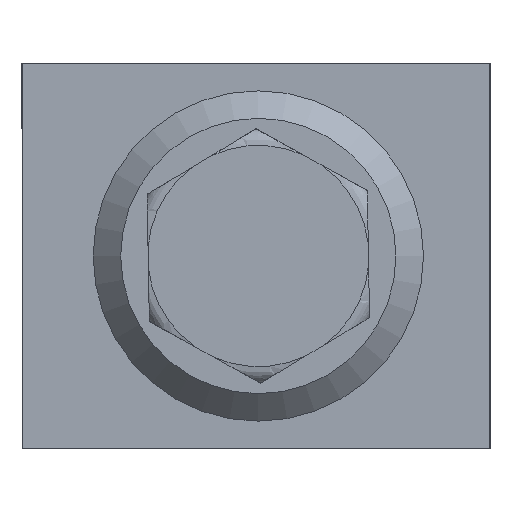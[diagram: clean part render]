
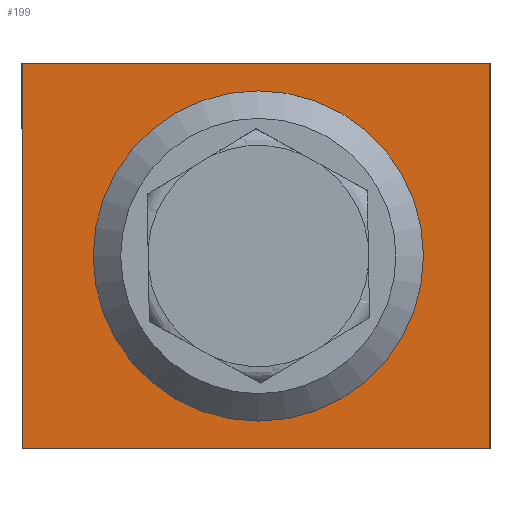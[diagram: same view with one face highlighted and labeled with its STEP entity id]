
A CAD part, left-side view. The second image highlights one B-rep face of the part: STEP entity #199.
In plain terms, the highlighted planar face has unit normal (-1, 0, 0).
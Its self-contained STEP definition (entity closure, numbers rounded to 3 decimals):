
#101=PLANE('',#1676);
#149=FACE_BOUND('',#387,.T.);
#150=FACE_BOUND('',#388,.T.);
#199=ADVANCED_FACE('',(#149,#150),#101,.F.);
#387=EDGE_LOOP('',(#678));
#388=EDGE_LOOP('',(#679,#680,#681,#682));
#589=CIRCLE('',#1675,30.);
#678=ORIENTED_EDGE('',*,*,#1294,.F.);
#679=ORIENTED_EDGE('',*,*,#1295,.T.);
#680=ORIENTED_EDGE('',*,*,#1287,.F.);
#681=ORIENTED_EDGE('',*,*,#1296,.F.);
#682=ORIENTED_EDGE('',*,*,#1297,.T.);
#1122=VERTEX_POINT('',#3822);
#1123=VERTEX_POINT('',#3824);
#1129=VERTEX_POINT('',#3838);
#1130=VERTEX_POINT('',#3840);
#1131=VERTEX_POINT('',#3842);
#1287=EDGE_CURVE('',#1122,#1123,#1492,.T.);
#1294=EDGE_CURVE('',#1129,#1129,#589,.T.);
#1295=EDGE_CURVE('',#1130,#1123,#1497,.T.);
#1296=EDGE_CURVE('',#1131,#1122,#1498,.T.);
#1297=EDGE_CURVE('',#1131,#1130,#1499,.T.);
#1492=LINE('',#3823,#1578);
#1497=LINE('',#3839,#1583);
#1498=LINE('',#3841,#1584);
#1499=LINE('',#3843,#1585);
#1578=VECTOR('',#1842,1.);
#1583=VECTOR('',#1855,1.);
#1584=VECTOR('',#1856,1.);
#1585=VECTOR('',#1857,1.);
#1675=AXIS2_PLACEMENT_3D('',#3837,#1853,#1854);
#1676=AXIS2_PLACEMENT_3D('',#3844,#1858,#1859);
#1842=DIRECTION('',(0.,0.,-1.));
#1853=DIRECTION('',(-1.,0.,0.));
#1854=DIRECTION('',(0.,-1.,0.));
#1855=DIRECTION('',(0.,-1.,0.));
#1856=DIRECTION('',(0.,-1.,0.));
#1857=DIRECTION('',(0.,0.,-1.));
#1858=DIRECTION('',(1.,0.,0.));
#1859=DIRECTION('',(0.,0.,-1.));
#3822=CARTESIAN_POINT('',(-67.5,-42.5,70.));
#3823=CARTESIAN_POINT('',(-67.5,-42.5,70.));
#3824=CARTESIAN_POINT('',(-67.5,-42.5,0.));
#3837=CARTESIAN_POINT('',(-67.5,-0.421,35.));
#3838=CARTESIAN_POINT('',(-67.5,-30.421,35.));
#3839=CARTESIAN_POINT('',(-67.5,42.5,0.));
#3840=CARTESIAN_POINT('',(-67.5,42.5,0.));
#3841=CARTESIAN_POINT('',(-67.5,42.5,70.));
#3842=CARTESIAN_POINT('',(-67.5,42.5,70.));
#3843=CARTESIAN_POINT('',(-67.5,42.5,70.));
#3844=CARTESIAN_POINT('',(-67.5,42.5,70.));
